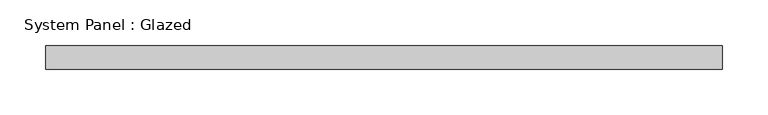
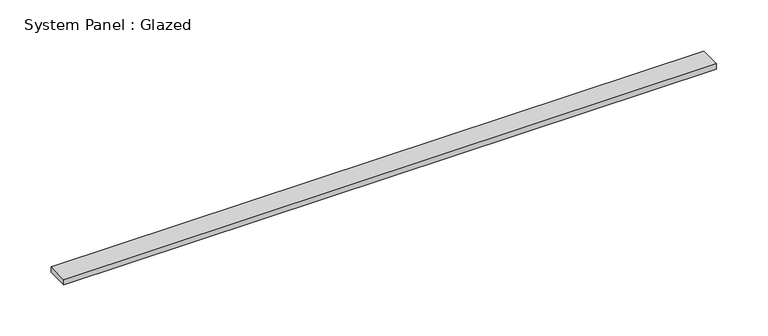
"""IFC4 building model written with IfcOpenShell, lengths in millimetres: plate geometry, System Panel : Glazed."""

from ifc_helpers import new_model, si_unit, origin, origin_with_axes, place, context, project, spatial, polyline, outline, extrude, source, transform, mapped, element, save


def system_panel_glazed_6896c6c0(model_context):
    return source(origin(), model_context, "Body", "SweptSolid", [
        extrude(outline(polyline([(369.57, 19.05), (-369.57, 19.05), (-369.57, 44.45), (369.57, 44.45), (369.57, 19.05)])), origin_with_axes(), (0.0, 0.0, 1.0), 6.35),
    ])


if __name__ == "__main__":
    model = new_model("IFC4")
    model_context = context("Model", 3, world=origin())
    ifc_project = project(units=[si_unit("LENGTHUNIT", "METRE", prefix="MILLI")], contexts=[model_context])
    site = spatial("IfcSite", under=ifc_project)
    building = spatial("IfcBuilding", under=site)
    placement = place(None, origin())
    system_panel_glazed_shape = system_panel_glazed_6896c6c0(model_context)
    element("IfcPlate", 1, ObjectType="System Panel : Glazed", at=placement, inside=building, context=model_context, shape_type="MappedRepresentation", body=[
        mapped(system_panel_glazed_shape, transform((0.0, 0.0, 0.0), x_axis=(1.0, 0.0, 0.0), y_axis=(0.0, 1.0, 0.0), z_axis=(0.0, 0.0, 1.0))),
    ])
    save(model, "model.ifc")
